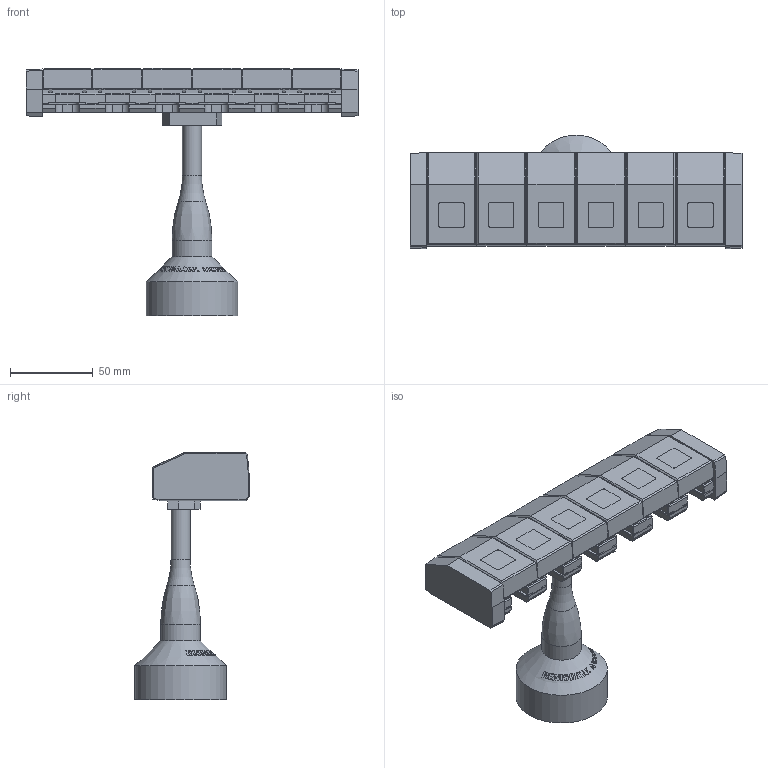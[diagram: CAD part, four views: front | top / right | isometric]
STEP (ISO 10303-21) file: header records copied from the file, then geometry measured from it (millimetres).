
FILE_DESCRIPTION(/* description */ (''),/* implementation_level */ '2;1');
FILE_NAME(/* name */ 'LA-1371-0250-#D.stp',/* time_stamp */ '2012-09-04T14:56:23+01:00',/* author */ (''),/* organization */ (''),/* preprocessor_version */ 'ST-DEVELOPER v11',/* originating_system */ 'SIEMENS PLM Software NX 7.5',/* authorisation */ '');
FILE_SCHEMA (('AUTOMOTIVE_DESIGN { 1 0 10303 214 1 1 1 1 }'));
Length unit declared in the file: millimetre
Products named in the file (1): rt133622tjsr
Bounding box: 200 x 68.75 x 148.93 mm (x, y, z)
Volume: 338405.6 mm3; surface area: 81974.3 mm2
Topology: 7 solids, 7 shells, 552 faces, 1812 edges, 1259 vertices
Faces by surface type: plane 350, bspline 116, cylinder 68, cone 17, torus 1
Full cylindrical faces by diameter (mm): 11.5 x1, 23.95 x1, 55 x1
Entity records: 23761 total; most frequent: CARTESIAN_POINT 5047, ORIENTED_EDGE 3604, DIRECTION 2304, EDGE_CURVE 1802, VERTEX_POINT 1255, LINE 1132, VECTOR 1132, EDGE_LOOP 587
